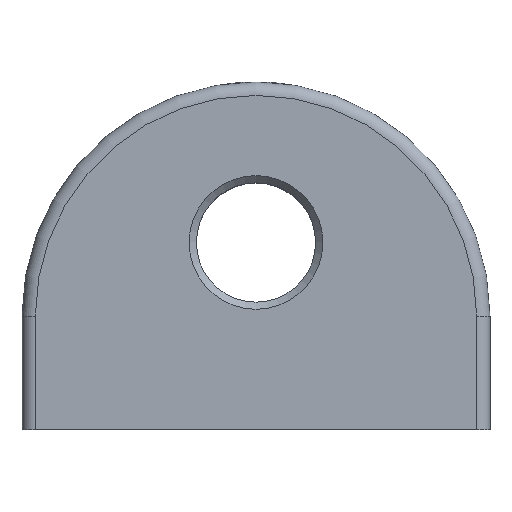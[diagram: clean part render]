
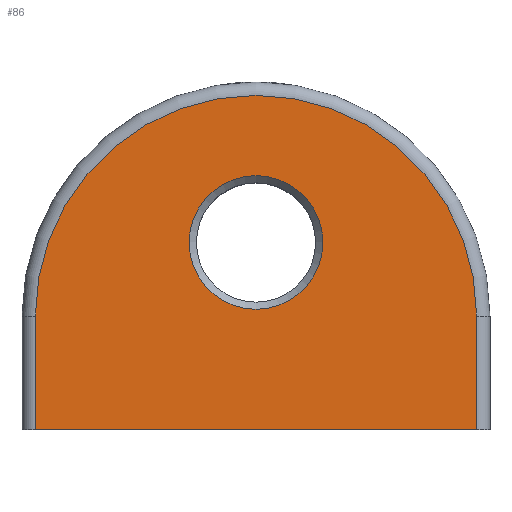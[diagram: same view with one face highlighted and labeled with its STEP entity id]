
A CAD part, top view. The second image highlights one B-rep face of the part: STEP entity #86.
In plain terms, the highlighted planar face has unit normal (0, 0, 1).
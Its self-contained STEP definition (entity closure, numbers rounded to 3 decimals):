
#86 = ADVANCED_FACE( '', ( #149, #150 ), #151, .F. );
#149 = FACE_BOUND( '', #258, .T. );
#150 = FACE_OUTER_BOUND( '', #259, .T. );
#151 = PLANE( '', #260 );
#258 = EDGE_LOOP( '', ( #420 ) );
#259 = EDGE_LOOP( '', ( #421, #422, #423, #424 ) );
#260 = AXIS2_PLACEMENT_3D( '', #425, #426, #427 );
#420 = ORIENTED_EDGE( '', *, *, #633, .T. );
#421 = ORIENTED_EDGE( '', *, *, #663, .F. );
#422 = ORIENTED_EDGE( '', *, *, #640, .F. );
#423 = ORIENTED_EDGE( '', *, *, #664, .T. );
#424 = ORIENTED_EDGE( '', *, *, #656, .T. );
#425 = CARTESIAN_POINT( '', ( -16.5, 8.5, 6. ) );
#426 = DIRECTION( '', ( 0., 0., -1. ) );
#427 = DIRECTION( '', ( -1., 0., 0. ) );
#633 = EDGE_CURVE( '', #720, #720, #721, .T. );
#640 = EDGE_CURVE( '', #733, #735, #736, .T. );
#656 = EDGE_CURVE( '', #765, #763, #766, .T. );
#663 = EDGE_CURVE( '', #735, #763, #774, .T. );
#664 = EDGE_CURVE( '', #733, #765, #775, .T. );
#720 = VERTEX_POINT( '', #964 );
#721 = CIRCLE( '', #965, 5. );
#733 = VERTEX_POINT( '', #977 );
#735 = VERTEX_POINT( '', #979 );
#736 = CIRCLE( '', #980, 16.5 );
#763 = VERTEX_POINT( '', #1016 );
#765 = VERTEX_POINT( '', #1018 );
#766 = LINE( '', #1019, #1020 );
#774 = LINE( '', #1032, #1033 );
#775 = LINE( '', #1034, #1035 );
#964 = CARTESIAN_POINT( '', ( -5., 14., 6. ) );
#965 = AXIS2_PLACEMENT_3D( '', #1145, #1146, #1147 );
#977 = CARTESIAN_POINT( '', ( -16.5, 8.5, 6. ) );
#979 = CARTESIAN_POINT( '', ( 16.5, 8.5, 6. ) );
#980 = AXIS2_PLACEMENT_3D( '', #1166, #1167, #1168 );
#1016 = CARTESIAN_POINT( '', ( 16.5, 0., 6. ) );
#1018 = CARTESIAN_POINT( '', ( -16.5, 0., 6. ) );
#1019 = CARTESIAN_POINT( '', ( -16.5, 0., 6. ) );
#1020 = VECTOR( '', #1196, 1000. );
#1032 = CARTESIAN_POINT( '', ( 16.5, 8.5, 6. ) );
#1033 = VECTOR( '', #1207, 1000. );
#1034 = CARTESIAN_POINT( '', ( -16.5, 8.5, 6. ) );
#1035 = VECTOR( '', #1208, 1000. );
#1145 = CARTESIAN_POINT( '', ( 0., 14., 6. ) );
#1146 = DIRECTION( '', ( 0., 0., -1. ) );
#1147 = DIRECTION( '', ( -1., 0., 0. ) );
#1166 = CARTESIAN_POINT( '', ( 0., 8.5, 6. ) );
#1167 = DIRECTION( '', ( 0., 0., -1. ) );
#1168 = DIRECTION( '', ( -1., 0., 0. ) );
#1196 = DIRECTION( '', ( 1., 0., 0. ) );
#1207 = DIRECTION( '', ( 0., -1., 0. ) );
#1208 = DIRECTION( '', ( 0., -1., 0. ) );
